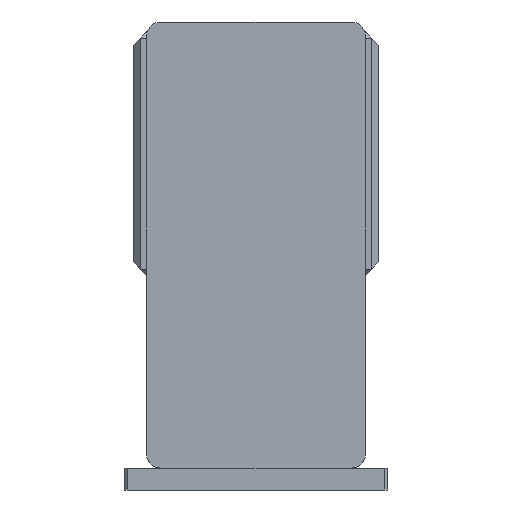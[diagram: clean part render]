
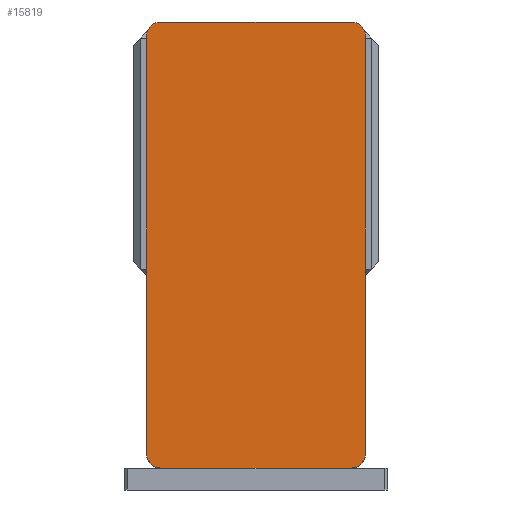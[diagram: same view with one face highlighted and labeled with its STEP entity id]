
A CAD part, left-side view. The second image highlights one B-rep face of the part: STEP entity #15819.
In plain terms, the highlighted planar face has unit normal (-1, 0, 0) as drawn and (0, 0, 1) by its records, which use the part's own axes.
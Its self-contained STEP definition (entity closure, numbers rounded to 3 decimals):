
#108 = CIRCLE ( 'NONE', #11329, 10. ) ;
#511 = CARTESIAN_POINT ( 'NONE',  ( 65., 152.5, 105. ) ) ;
#521 = CARTESIAN_POINT ( 'NONE',  ( 65., 142.5, 105. ) ) ;
#959 = CARTESIAN_POINT ( 'NONE',  ( 75., -142.5, 105. ) ) ;
#977 = AXIS2_PLACEMENT_3D ( 'NONE', #1990, #14533, #3819 ) ;
#1990 = CARTESIAN_POINT ( 'NONE',  ( -65., -142.5, 105. ) ) ;
#2204 = ORIENTED_EDGE ( 'NONE', *, *, #11419, .T. ) ;
#2344 = DIRECTION ( 'NONE',  ( -1., 0., 0. ) ) ;
#2362 = DIRECTION ( 'NONE',  ( 1., 0., 0. ) ) ;
#2935 = ORIENTED_EDGE ( 'NONE', *, *, #4998, .T. ) ;
#2979 = VERTEX_POINT ( 'NONE', #19170 ) ;
#3819 = DIRECTION ( 'NONE',  ( 1., 0., 0. ) ) ;
#4253 = LINE ( 'NONE', #5653, #18543 ) ;
#4506 = CARTESIAN_POINT ( 'NONE',  ( -75., -152.5, 105. ) ) ;
#4998 = EDGE_CURVE ( 'NONE', #9219, #6665, #17885, .T. ) ;
#5123 = VERTEX_POINT ( 'NONE', #511 ) ;
#5312 = ORIENTED_EDGE ( 'NONE', *, *, #5662, .T. ) ;
#5653 = CARTESIAN_POINT ( 'NONE',  ( 75., 152.5, 105. ) ) ;
#5662 = EDGE_CURVE ( 'NONE', #2979, #14771, #10589, .T. ) ;
#5887 = CARTESIAN_POINT ( 'NONE',  ( 0., 0., 105. ) ) ;
#6558 = FACE_OUTER_BOUND ( 'NONE', #16830, .T. ) ;
#6665 = VERTEX_POINT ( 'NONE', #22646 ) ;
#6753 = VECTOR ( 'NONE', #2344, 1000. ) ;
#7573 = EDGE_CURVE ( 'NONE', #14771, #12996, #4253, .T. ) ;
#7596 = CARTESIAN_POINT ( 'NONE',  ( -65., 152.5, 105. ) ) ;
#7704 = DIRECTION ( 'NONE',  ( 1., 0., 0. ) ) ;
#8025 = EDGE_CURVE ( 'NONE', #6665, #23054, #22798, .T. ) ;
#8136 = CARTESIAN_POINT ( 'NONE',  ( 65., -142.5, 105. ) ) ;
#8168 = AXIS2_PLACEMENT_3D ( 'NONE', #5887, #18403, #7704 ) ;
#8230 = EDGE_CURVE ( 'NONE', #23054, #2979, #10996, .T. ) ;
#8382 = VECTOR ( 'NONE', #12712, 1000. ) ;
#8759 = CARTESIAN_POINT ( 'NONE',  ( -65., -152.5, 105. ) ) ;
#8948 = CARTESIAN_POINT ( 'NONE',  ( -65., 142.5, 105. ) ) ;
#9026 = CARTESIAN_POINT ( 'NONE',  ( -75., 152.5, 105. ) ) ;
#9219 = VERTEX_POINT ( 'NONE', #21618 ) ;
#9927 = DIRECTION ( 'NONE',  ( 1., 0., 0. ) ) ;
#10191 = CIRCLE ( 'NONE', #15053, 10. ) ;
#10589 = CIRCLE ( 'NONE', #16890, 10. ) ;
#10752 = DIRECTION ( 'NONE',  ( 1., 0., 0. ) ) ;
#10996 = LINE ( 'NONE', #4506, #19412 ) ;
#11329 = AXIS2_PLACEMENT_3D ( 'NONE', #8948, #21486, #10752 ) ;
#11419 = EDGE_CURVE ( 'NONE', #5123, #22234, #16234, .T. ) ;
#12712 = DIRECTION ( 'NONE',  ( 0., -1., 0. ) ) ;
#12996 = VERTEX_POINT ( 'NONE', #14371 ) ;
#13074 = CARTESIAN_POINT ( 'NONE',  ( -75., 152.5, 105. ) ) ;
#13095 = DIRECTION ( 'NONE',  ( 0., 0., 1. ) ) ;
#13484 = EDGE_CURVE ( 'NONE', #22234, #9219, #108, .T. ) ;
#13813 = ORIENTED_EDGE ( 'NONE', *, *, #8025, .T. ) ;
#14321 = ORIENTED_EDGE ( 'NONE', *, *, #7573, .T. ) ;
#14371 = CARTESIAN_POINT ( 'NONE',  ( 75., 142.5, 105. ) ) ;
#14533 = DIRECTION ( 'NONE',  ( 0., 0., 1. ) ) ;
#14771 = VERTEX_POINT ( 'NONE', #959 ) ;
#14804 = PLANE ( 'NONE',  #8168 ) ;
#15053 = AXIS2_PLACEMENT_3D ( 'NONE', #521, #13095, #2362 ) ;
#15117 = EDGE_CURVE ( 'NONE', #12996, #5123, #10191, .T. ) ;
#15819 = ADVANCED_FACE ( 'NONE', ( #6558 ), #14804, .T. ) ;
#16234 = LINE ( 'NONE', #13074, #6753 ) ;
#16375 = DIRECTION ( 'NONE',  ( 0., 1., 0. ) ) ;
#16830 = EDGE_LOOP ( 'NONE', ( #21385, #5312, #14321, #20237, #2204, #17437, #2935, #13813 ) ) ;
#16890 = AXIS2_PLACEMENT_3D ( 'NONE', #8136, #20667, #9927 ) ;
#17437 = ORIENTED_EDGE ( 'NONE', *, *, #13484, .T. ) ;
#17885 = LINE ( 'NONE', #9026, #8382 ) ;
#18403 = DIRECTION ( 'NONE',  ( 0., 0., 1. ) ) ;
#18543 = VECTOR ( 'NONE', #16375, 1000. ) ;
#19170 = CARTESIAN_POINT ( 'NONE',  ( 65., -152.5, 105. ) ) ;
#19412 = VECTOR ( 'NONE', #22437, 1000. ) ;
#20237 = ORIENTED_EDGE ( 'NONE', *, *, #15117, .T. ) ;
#20667 = DIRECTION ( 'NONE',  ( 0., 0., 1. ) ) ;
#21385 = ORIENTED_EDGE ( 'NONE', *, *, #8230, .T. ) ;
#21486 = DIRECTION ( 'NONE',  ( 0., 0., 1. ) ) ;
#21618 = CARTESIAN_POINT ( 'NONE',  ( -75., 142.5, 105. ) ) ;
#22234 = VERTEX_POINT ( 'NONE', #7596 ) ;
#22437 = DIRECTION ( 'NONE',  ( 1., 0., 0. ) ) ;
#22646 = CARTESIAN_POINT ( 'NONE',  ( -75., -142.5, 105. ) ) ;
#22798 = CIRCLE ( 'NONE', #977, 10. ) ;
#23054 = VERTEX_POINT ( 'NONE', #8759 ) ;
